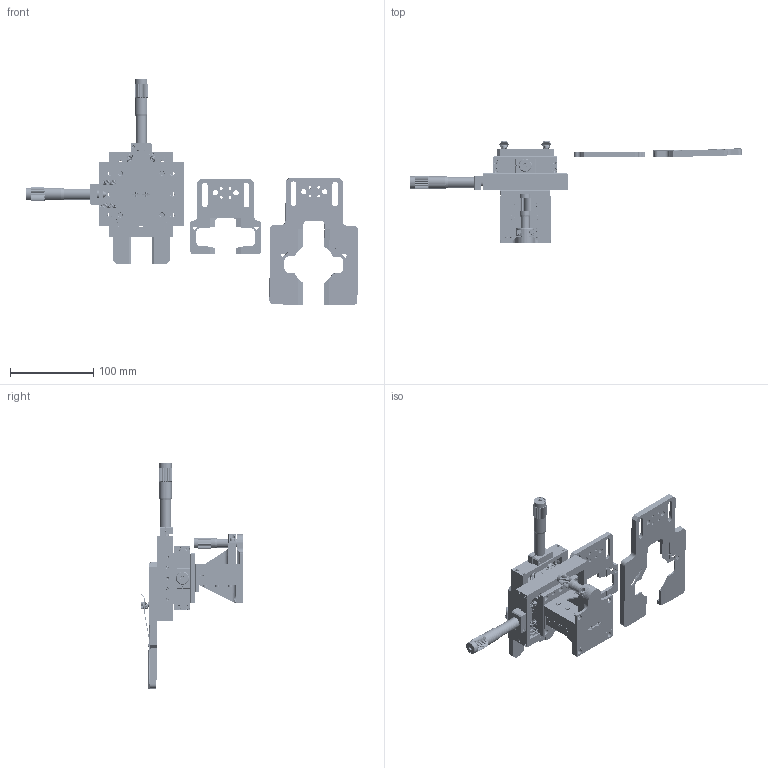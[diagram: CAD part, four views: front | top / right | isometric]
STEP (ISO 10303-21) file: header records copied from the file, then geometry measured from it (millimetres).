
FILE_DESCRIPTION((''),'2;1');
FILE_NAME('XYZ-LEB_ASM','2026-07-08T13:45:00',('Administrator'),(''),'CREO PARAMETRIC BY PTC INC, 2025102','CREO PARAMETRIC BY PTC INC, 2025102','');
FILE_SCHEMA(('CONFIG_CONTROL_DESIGN'));
Products named in the file (109): VLT-Z-A2_3_1_1; VLT-Z-A3_3_1_1; VLT-Z-A4_3_1_1; VLT-Z-A5_3_1_1; VLT-Z-A6_3_1_1; VLT-Z-A7_3_1_1; VLT-Z-A9_3_1_1; VLT-Z-B1_3_1_1; VLT-Z-B2_3_1_1; VLT-Z-B3_3_1_1; VLT-Z-B4_3_1_1; VLT-Z-B5_3_1_1; VLT-Z-B6_3_1_1; VLT-Z-A8_ASM_7_ASM_1_1_ASM; VLT-Z-B7_3_1_1; VLT-Z-B8_22_1_1; VLT-Z-B9_3_1_1; SM13_A1_11_1_1; SM13_A2_3_1_1; SM13_A6_3_1_1; SM13_A3_3_1_1; SM13_A4_3_1_1; SM13_ASM_4_ASM_1_1_ASM; VLT-Z-C1_ASM_12_ASM_1_1_ASM; VLT-Z-C4_ASM_3_ASM_1_1_ASM; VLT-Z-C5_134_1_1; VLT-Z-C6_78_1_1; VLT-Z-C7_97_1_1; VLT-Z-A1_ASM_5_ASM_1_1_ASM; VLT-Z_ASM_50_ASM_1_1_ASM; VLT-Z_ASM_ASM_1_1_ASM; TSX-LE-B-A2_7_1_1; TSX-LE-B-A3_7_1_1; TSX-LE-B-A4_7_1_1; TSX-LE-B-A5_7_1_1; TSX-LE-B-A6_8_1_1; TSX-LE-B-A7_7_1_1; TSX-LE-B-A8_8_1_1; TSX-LE-B-A9_22_1_1; TSX-LE-B-B1_8_1_1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
Assembly tree (154 placements, depth 7):
  XYZ-LEB_ASM
    VLT-Z_ASM_ASM_1_1_ASM
      VLT-Z_ASM_50_ASM_1_1_ASM
        VLT-Z-A1_ASM_5_ASM_1_1_ASM
          VLT-Z-A2_3_1_1  x6
          VLT-Z-A3_3_1_1  x2
          VLT-Z-A4_3_1_1  x2
          VLT-Z-A5_3_1_1  x6
          VLT-Z-A6_3_1_1  x2
          VLT-Z-A7_3_1_1  x3
          VLT-Z-A8_ASM_7_ASM_1_1_ASM
            VLT-Z-A9_3_1_1  x4
            VLT-Z-B1_3_1_1  x2
            VLT-Z-B2_3_1_1  x2
            VLT-Z-B3_3_1_1  x8
            VLT-Z-B4_3_1_1
            VLT-Z-B5_3_1_1
            VLT-Z-B6_3_1_1
          VLT-Z-B7_3_1_1  x4
          VLT-Z-B8_22_1_1
          VLT-Z-B9_3_1_1
          VLT-Z-C1_ASM_12_ASM_1_1_ASM
            SM13_ASM_4_ASM_1_1_ASM
              SM13_A1_11_1_1
              SM13_A2_3_1_1
              SM13_A6_3_1_1
              SM13_A3_3_1_1
              SM13_A4_3_1_1
          VLT-Z-C4_ASM_3_ASM_1_1_ASM
            VLT-Z-B1_3_1_1  x2
            VLT-Z-B3_3_1_1  x8
            VLT-Z-B4_3_1_1
            VLT-Z-B2_3_1_1  x2
            VLT-Z-A9_3_1_1  x2
          VLT-Z-C5_134_1_1
          VLT-Z-C6_78_1_1
          VLT-Z-C7_97_1_1
    TSX-LE-B_ASM_ASM_1_1_ASM  x2
      TSX-LE-B_ASM_99_ASM_1_1_ASM
        TSX-LE-B-A1_ASM_28_ASM_1_1_ASM
          TSX-LE-B-A2_7_1_1
          TSX-LE-B-A3_7_1_1
          TSX-LE-B-A4_7_1_1
          TSX-LE-B-A5_7_1_1
          TSX-LE-B-A6_8_1_1
          TSX-LE-B-A7_7_1_1
          TSX-LE-B-A8_8_1_1
          TSX-LE-B-A9_22_1_1
          TSX-LE-B-B1_8_1_1
        TSX-LE-B-B2_5_1_1
        TSX-LE-B-B3_5_1_1
        TSX-LE-B-B4_5_1_1
        TSX-LE-B-B5_5_1_1
        TSX-LE-B-B6_252_1_1
        TSX-LE-B-B7_5_1_1
        TSX-LE-B-B8_8_1_1
        TSX-LE-B-B9_5_1_1
        TSX-LE-B-C1_5_1_1
        TSX-LE-B-C2_5_1_1
        TSX-LE-B-C3_5_1_1
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Bounding box: 398.37 x 122.68 x 271.24 mm (x, y, z)
Volume: 488616.2 mm3; surface area: 278893 mm2
Topology: 196 solids, 196 shells, 9828 faces, 26345 edges, 16990 vertices
Faces by surface type: cylinder 3937, plane 2993, bspline 1567, cone 1064, sphere 114, torus 78, extrusion 75
Entity records: 555898 total; most frequent: CARTESIAN_POINT 406951, ORIENTED_EDGE 33798, DIRECTION 25619, EDGE_CURVE 16899, VERTEX_POINT 10984, AXIS2_PLACEMENT_3D 9121, VECTOR 7377, LINE 7326
